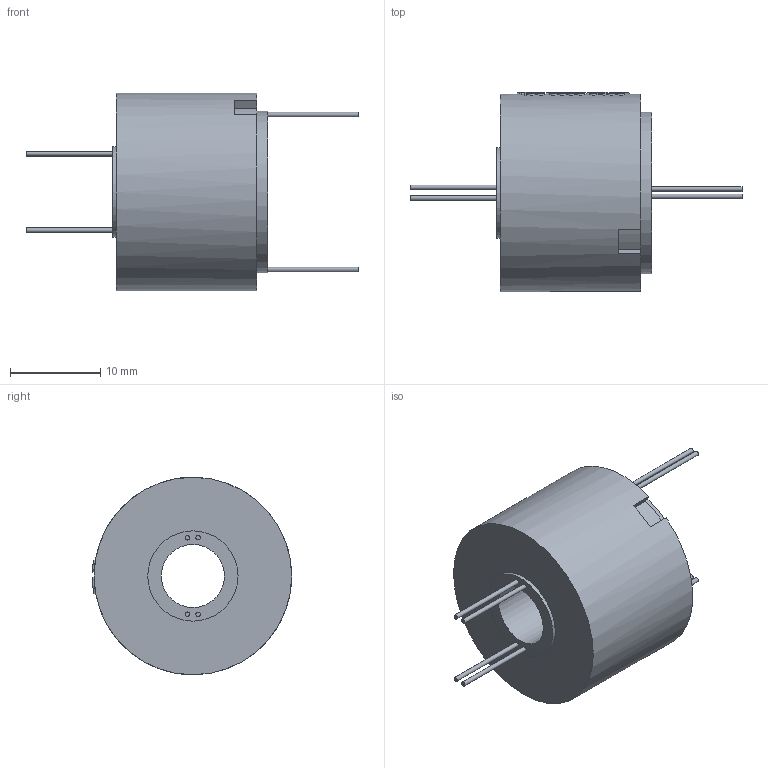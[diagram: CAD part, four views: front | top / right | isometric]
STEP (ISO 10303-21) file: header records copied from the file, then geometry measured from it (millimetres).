
FILE_DESCRIPTION(/* description */ (''),/* implementation_level */ '2;1');
FILE_NAME(/* name */ 'YM0722-0402-3D模型.stp',/* time_stamp */ '2025-09-05T10:27:45+08:00',/* author */ (''),/* organization */ (''),/* preprocessor_version */ 'ST-DEVELOPER v16.7',/* originating_system */ 'SIEMENS PLM Software NX 12.0',/* authorisation */ '');
FILE_SCHEMA (('AUTOMOTIVE_DESIGN { 1 0 10303 214 3 1 1 1 }'));
Length unit declared in the file: millimetre
Products named in the file (1): Admi30D0F0663bfm
Bounding box: 36.8 x 22.1 x 21.9 mm (x, y, z)
Volume: 5548.6 mm3; surface area: 2370.7 mm2
Topology: 1 solids, 1 shells, 713 faces, 1972 edges, 1316 vertices
Faces by surface type: extrusion 450, plane 204, cylinder 30, bspline 29
Full cylindrical faces by diameter (mm): 0.493 x8, 7 x1, 10 x1, 17.889 x1, 21.9 x1
Entity records: 30359 total; most frequent: CARTESIAN_POINT 15408, ORIENTED_EDGE 3910, B_SPLINE_CURVE_WITH_KNOTS 2116, EDGE_CURVE 1955, DIRECTION 1370, VERTEX_POINT 1311, EDGE_LOOP 782, ADVANCED_FACE 713
